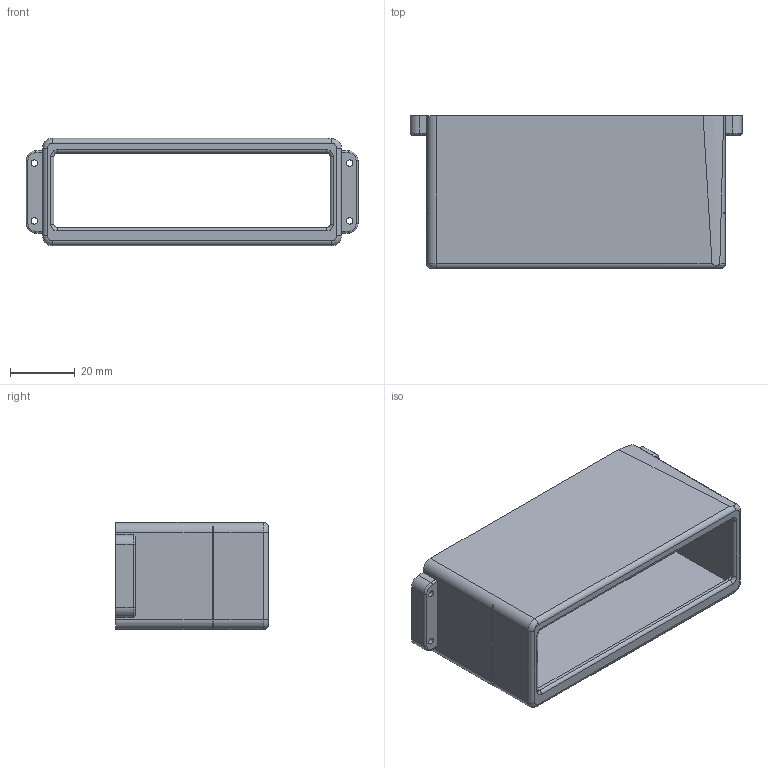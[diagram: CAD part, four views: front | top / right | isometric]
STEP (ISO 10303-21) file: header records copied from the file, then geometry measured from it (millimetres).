
FILE_DESCRIPTION(/* description */ (''),/* implementation_level */ '2;1');
FILE_NAME(/* name */ 'DED cap.step',/* time_stamp */ '2024-10-31T18:12:01+02:00',/* author */ (''),/* organization */ (''),/* preprocessor_version */ 'ST-DEVELOPER v20',/* originating_system */ 'Autodesk Translation Framework v13.20.0.188',/* authorisation */ '');
FILE_SCHEMA (('AUTOMOTIVE_DESIGN { 1 0 10303 214 3 1 1 }'));
Length unit declared in the file: millimetre
Products named in the file (1): DED
Bounding box: 102.2 x 47 x 33 mm (x, y, z)
Volume: 23967.8 mm3; surface area: 25312.7 mm2
Topology: 1 solids, 1 shells, 139 faces, 368 edges, 238 vertices
Faces by surface type: plane 74, cylinder 50, torus 8, bspline 4, cone 3
Full cylindrical faces by diameter (mm): 2 x4, 5.5 x3
Entity records: 4392 total; most frequent: CARTESIAN_POINT 811, DIRECTION 758, ORIENTED_EDGE 736, EDGE_CURVE 368, AXIS2_PLACEMENT_3D 257, LINE 244, VECTOR 244, VERTEX_POINT 238
